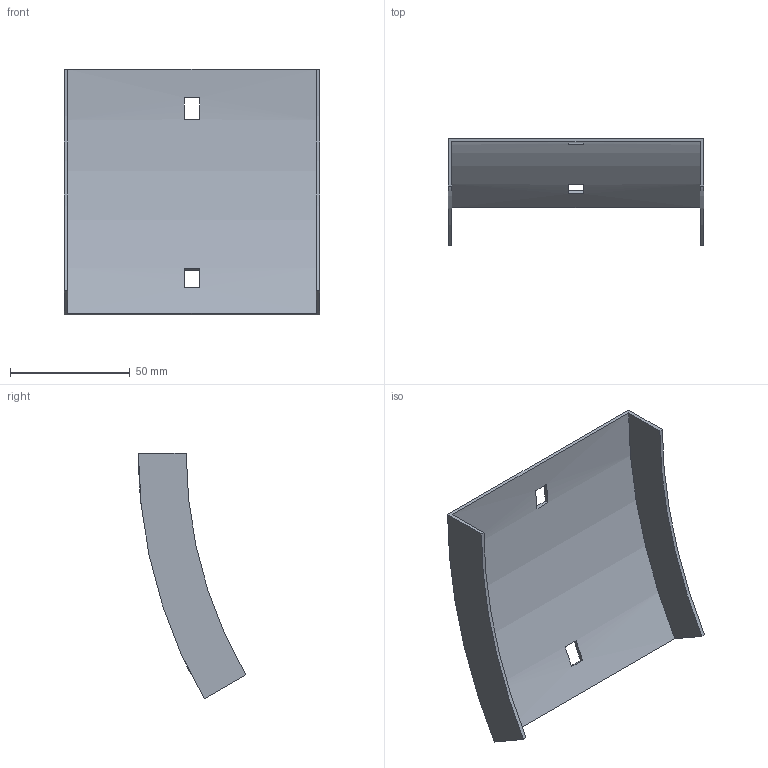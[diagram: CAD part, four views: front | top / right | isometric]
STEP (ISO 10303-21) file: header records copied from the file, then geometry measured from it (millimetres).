
FILE_DESCRIPTION (( 'STEP AP214' ), '1' );
FILE_NAME ('35N1D100.step', '2025-02-21T09:10:52', ( '' ), ( '' ), 'SwSTEP 2.0', 'SolidWorks 2023', '' );
FILE_SCHEMA (( 'AUTOMOTIVE_DESIGN' ));
Length unit declared in the file: millimetre
Products named in the file (1): 35N1D100
Bounding box: 107 x 44.85 x 102.75 mm (x, y, z)
Volume: 22690 mm3; surface area: 31071.2 mm2
Topology: 1 solids, 1 shells, 18 faces, 48 edges, 32 vertices
Faces by surface type: plane 14, cylinder 4
Entity records: 599 total; most frequent: DIRECTION 102, CARTESIAN_POINT 99, ORIENTED_EDGE 96, EDGE_CURVE 48, AXIS2_PLACEMENT_3D 35, VECTOR 32, VERTEX_POINT 32, LINE 32
